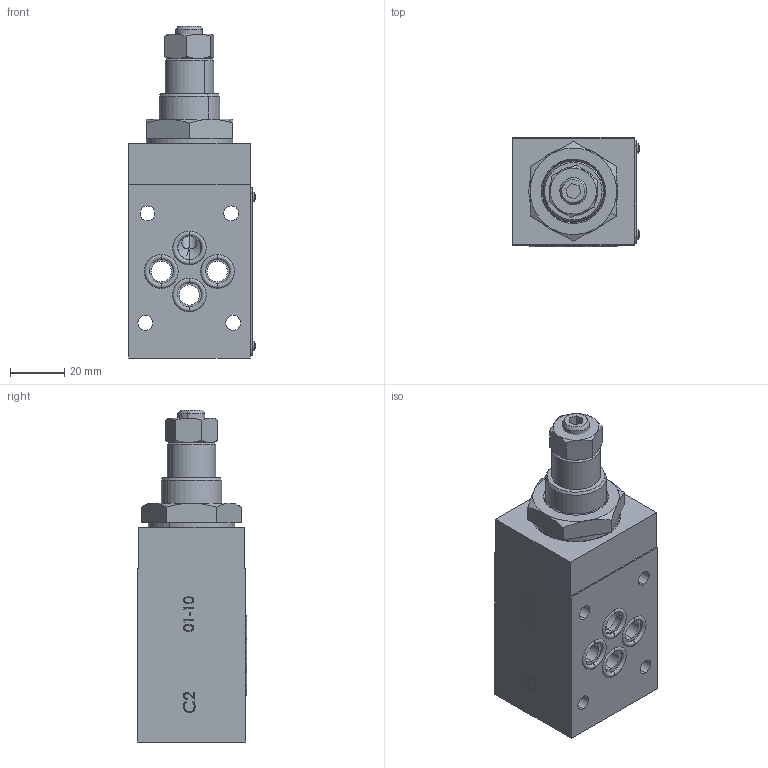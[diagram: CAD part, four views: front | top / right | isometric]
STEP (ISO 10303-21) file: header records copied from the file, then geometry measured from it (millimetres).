
FILE_DESCRIPTION (( 'STEP AP214' ), '1' );
FILE_NAME ('FT358-5-A-03.STEP', '2014-06-18T06:26:10', ( '' ), ( '' ), 'SwSTEP 2.0', 'SolidWorks 2014', '' );
FILE_SCHEMA (( 'AUTOMOTIVE_DESIGN' ));
Length unit declared in the file: millimetre
Products named in the file (17): OR2037; OR2068; OR132; AnelloFermoFT1251_2-01-12; 257-6-009000-38; 267-5-002001-38; 267-5-008001-38; 358-5-AB017000; OR2018; BK2018; 357-5-AB101000; RivettoTarga; 358-5-A015000; 357-5-A001000; FT358-5-A-03; 267-5-018000-38; 358-5AB012000
Assembly tree (22 placements, depth 2):
  FT358-5-A-03
    357-5-A001000
    358-5-A015000
    RivettoTarga  x4
    357-5-AB101000
    BK2018
    OR2018
    267-5-018000-38
    358-5-AB017000
    267-5-008001-38
    267-5-002001-38
    257-6-009000-38
    AnelloFermoFT1251_2-01-12
    OR132
    OR2068
    OR2037  x4
    358-5AB012000
Bounding box: 46.96 x 40.38 x 122.8 mm (x, y, z)
Volume: 147675.7 mm3; surface area: 49794.9 mm2
Topology: 22 solids, 22 shells, 1765 faces, 4449 edges, 2884 vertices
Faces by surface type: plane 948, bspline 385, cylinder 254, cone 138, torus 40
Entity records: 89060 total; most frequent: CARTESIAN_POINT 36208, ORIENTED_EDGE 8678, DIRECTION 6695, EDGE_CURVE 4339, LINE 2893, VECTOR 2893, VERTEX_POINT 2830, EDGE_LOOP 1943
